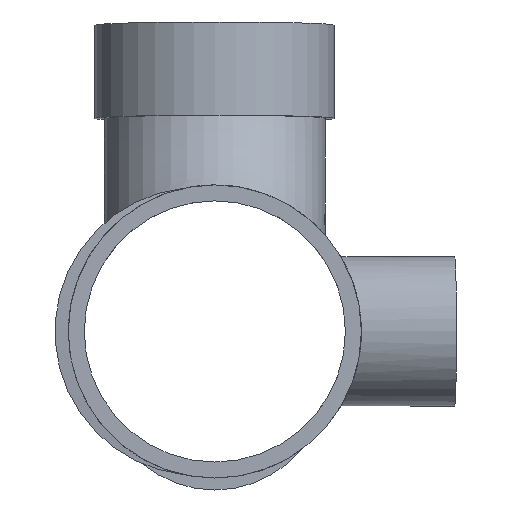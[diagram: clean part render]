
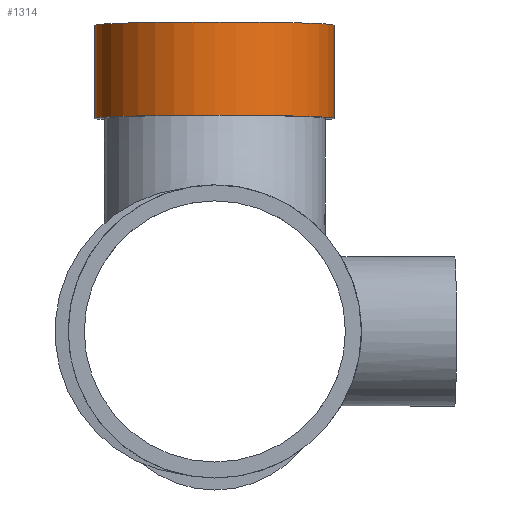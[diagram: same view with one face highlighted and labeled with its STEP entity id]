
A CAD part, front view. The second image highlights one B-rep face of the part: STEP entity #1314.
In plain terms, the highlighted cylindrical face has radius 45 mm (diameter 90 mm), a full revolution.
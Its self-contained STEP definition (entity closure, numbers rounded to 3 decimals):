
#247=CYLINDRICAL_SURFACE($,#1491,45.);
#299=FACE_BOUND($,#509,.T.);
#379=FACE_OUTER_BOUND($,#508,.T.);
#508=EDGE_LOOP($,(#1194));
#509=EDGE_LOOP($,(#1195));
#596=CIRCLE($,#1490,45.);
#597=CIRCLE($,#1492,45.);
#716=VERTEX_POINT($,#3075);
#717=VERTEX_POINT($,#3078);
#876=EDGE_CURVE($,#716,#716,#596,.T.);
#877=EDGE_CURVE($,#717,#717,#597,.T.);
#1194=ORIENTED_EDGE($,*,*,#877,.T.);
#1195=ORIENTED_EDGE($,*,*,#876,.F.);
#1314=ADVANCED_FACE($,(#379,#299),#247,.T.);
#1490=AXIS2_PLACEMENT_3D($,#3076,#1879,#1880);
#1491=AXIS2_PLACEMENT_3D($,#3077,#1881,#1882);
#1492=AXIS2_PLACEMENT_3D($,#3079,#1883,#1884);
#1879=DIRECTION('center_axis',(-1.,0.026,0.));
#1880=DIRECTION('ref_axis',(-0.026,-1.,0.));
#1881=DIRECTION('center_axis',(1.,-0.026,0.));
#1882=DIRECTION('ref_axis',(-0.026,-1.,0.));
#1883=DIRECTION('center_axis',(-1.,0.026,0.));
#1884=DIRECTION('ref_axis',(-0.026,-1.,0.));
#3075=CARTESIAN_POINT('',(-113.783,182.995,0.));
#3076=CARTESIAN_POINT('Origin',(-114.961,138.01,0.));
#3077=CARTESIAN_POINT('Origin',(-114.961,138.01,0.));
#3078=CARTESIAN_POINT('',(-78.795,182.079,0.));
#3079=CARTESIAN_POINT('Origin',(-79.973,137.094,0.));
